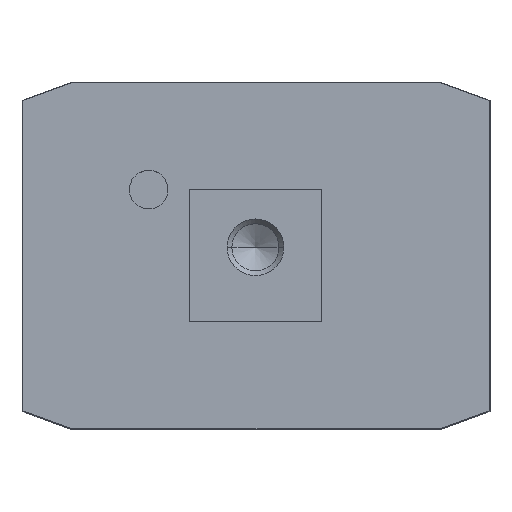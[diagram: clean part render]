
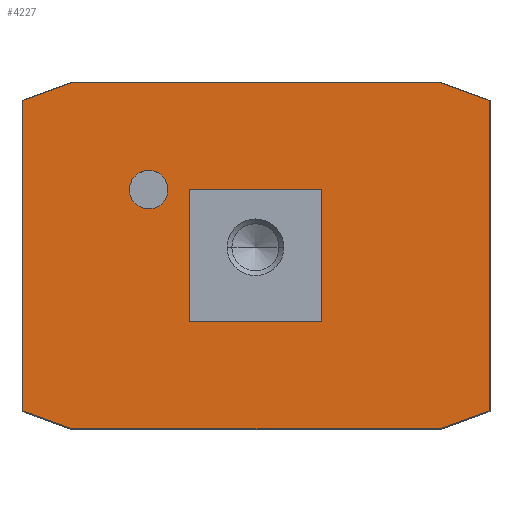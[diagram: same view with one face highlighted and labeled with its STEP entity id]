
A CAD part, top view. The second image highlights one B-rep face of the part: STEP entity #4227.
In plain terms, the highlighted planar face has unit normal (0, 0, 1).
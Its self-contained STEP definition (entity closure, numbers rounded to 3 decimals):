
#1542=CARTESIAN_POINT('',(-23.,12.,56.5));
#1543=VERTEX_POINT('',#1542);
#1559=CARTESIAN_POINT('',(-16.,12.,56.5));
#1560=VERTEX_POINT('',#1559);
#1567=CARTESIAN_POINT('',(-19.5,12.,56.5));
#1568=DIRECTION('',(0.0,0.0,-1.0));
#1569=DIRECTION('',(-1.0,0.0,0.0));
#1570=AXIS2_PLACEMENT_3D('',#1567,#1568,#1569);
#1571=CIRCLE('',#1570,3.5);
#1572=EDGE_CURVE('',#1543,#1560,#1571,.T.);
#2332=CARTESIAN_POINT('',(11.9,12.,56.5));
#2333=VERTEX_POINT('',#2332);
#2340=CARTESIAN_POINT('',(-12.1,12.,56.5));
#2341=VERTEX_POINT('',#2340);
#2342=CARTESIAN_POINT('',(-12.1,12.,56.5));
#2343=DIRECTION('',(1.0,0.0,0.0));
#2344=VECTOR('',#2343,24.);
#2345=LINE('',#2342,#2344);
#2346=EDGE_CURVE('',#2341,#2333,#2345,.T.);
#2370=CARTESIAN_POINT('',(11.9,-12.,56.5));
#2371=VERTEX_POINT('',#2370);
#2378=CARTESIAN_POINT('',(11.9,12.,56.5));
#2379=DIRECTION('',(0.0,-1.0,0.0));
#2380=VECTOR('',#2379,24.);
#2381=LINE('',#2378,#2380);
#2382=EDGE_CURVE('',#2333,#2371,#2381,.T.);
#2401=CARTESIAN_POINT('',(-12.1,-12.,56.5));
#2402=VERTEX_POINT('',#2401);
#2409=CARTESIAN_POINT('',(11.9,-12.,56.5));
#2410=DIRECTION('',(-1.0,0.0,0.0));
#2411=VECTOR('',#2410,24.0);
#2412=LINE('',#2409,#2411);
#2413=EDGE_CURVE('',#2371,#2402,#2412,.T.);
#2431=CARTESIAN_POINT('',(-12.1,-12.,56.5));
#2432=DIRECTION('',(0.0,1.0,0.0));
#2433=VECTOR('',#2432,24.);
#2434=LINE('',#2431,#2433);
#2435=EDGE_CURVE('',#2402,#2341,#2434,.T.);
#2463=CARTESIAN_POINT('',(-19.5,12.,56.5));
#2464=DIRECTION('',(0.0,0.0,-1.0));
#2465=DIRECTION('',(-1.0,0.0,0.0));
#2466=AXIS2_PLACEMENT_3D('',#2463,#2464,#2465);
#2467=CIRCLE('',#2466,3.5);
#2468=EDGE_CURVE('',#1560,#1543,#2467,.T.);
#3959=CARTESIAN_POINT('',(-42.4,-28.154,56.5));
#3960=VERTEX_POINT('',#3959);
#3961=CARTESIAN_POINT('',(-42.4,28.154,56.5));
#3962=VERTEX_POINT('',#3961);
#3963=CARTESIAN_POINT('',(-42.4,-28.154,56.5));
#3964=DIRECTION('',(0.0,1.0,0.0));
#3965=VECTOR('',#3964,56.308);
#3966=LINE('',#3963,#3965);
#3967=EDGE_CURVE('',#3960,#3962,#3966,.T.);
#3999=CARTESIAN_POINT('',(-33.482,31.4,56.5));
#4000=VERTEX_POINT('',#3999);
#4001=CARTESIAN_POINT('',(-42.4,28.154,56.5));
#4002=DIRECTION('',(0.94,0.342,0.0));
#4003=VECTOR('',#4002,9.49);
#4004=LINE('',#4001,#4003);
#4005=EDGE_CURVE('',#3962,#4000,#4004,.T.);
#4030=CARTESIAN_POINT('',(33.482,31.4,56.5));
#4031=VERTEX_POINT('',#4030);
#4032=CARTESIAN_POINT('',(-33.482,31.4,56.5));
#4033=DIRECTION('',(1.0,0.0,0.0));
#4034=VECTOR('',#4033,66.965);
#4035=LINE('',#4032,#4034);
#4036=EDGE_CURVE('',#4000,#4031,#4035,.T.);
#4061=CARTESIAN_POINT('',(42.4,28.154,56.5));
#4062=VERTEX_POINT('',#4061);
#4063=CARTESIAN_POINT('',(33.482,31.4,56.5));
#4064=DIRECTION('',(0.94,-0.342,0.0));
#4065=VECTOR('',#4064,9.49);
#4066=LINE('',#4063,#4065);
#4067=EDGE_CURVE('',#4031,#4062,#4066,.T.);
#4092=CARTESIAN_POINT('',(42.4,-28.154,56.5));
#4093=VERTEX_POINT('',#4092);
#4094=CARTESIAN_POINT('',(42.4,28.154,56.5));
#4095=DIRECTION('',(0.0,-1.0,0.0));
#4096=VECTOR('',#4095,56.308);
#4097=LINE('',#4094,#4096);
#4098=EDGE_CURVE('',#4062,#4093,#4097,.T.);
#4123=CARTESIAN_POINT('',(33.482,-31.4,56.5));
#4124=VERTEX_POINT('',#4123);
#4125=CARTESIAN_POINT('',(42.4,-28.154,56.5));
#4126=DIRECTION('',(-0.94,-0.342,0.0));
#4127=VECTOR('',#4126,9.49);
#4128=LINE('',#4125,#4127);
#4129=EDGE_CURVE('',#4093,#4124,#4128,.T.);
#4154=CARTESIAN_POINT('',(-33.482,-31.4,56.5));
#4155=VERTEX_POINT('',#4154);
#4156=CARTESIAN_POINT('',(33.482,-31.4,56.5));
#4157=DIRECTION('',(-1.0,0.0,0.0));
#4158=VECTOR('',#4157,66.965);
#4159=LINE('',#4156,#4158);
#4160=EDGE_CURVE('',#4124,#4155,#4159,.T.);
#4185=CARTESIAN_POINT('',(-33.482,-31.4,56.5));
#4186=DIRECTION('',(-0.94,0.342,0.0));
#4187=VECTOR('',#4186,9.49);
#4188=LINE('',#4185,#4187);
#4189=EDGE_CURVE('',#4155,#3960,#4188,.T.);
#4202=CARTESIAN_POINT('',(0.0,0.,56.5));
#4203=DIRECTION('',(0.0,0.0,1.0));
#4204=DIRECTION('',(1.0,0.0,0.0));
#4205=AXIS2_PLACEMENT_3D('',#4202,#4203,#4204);
#4206=PLANE('',#4205);
#4207=ORIENTED_EDGE('',*,*,#3967,.F.);
#4208=ORIENTED_EDGE('',*,*,#4189,.F.);
#4209=ORIENTED_EDGE('',*,*,#4160,.F.);
#4210=ORIENTED_EDGE('',*,*,#4129,.F.);
#4211=ORIENTED_EDGE('',*,*,#4098,.F.);
#4212=ORIENTED_EDGE('',*,*,#4067,.F.);
#4213=ORIENTED_EDGE('',*,*,#4036,.F.);
#4214=ORIENTED_EDGE('',*,*,#4005,.F.);
#4215=EDGE_LOOP('',(#4207,#4208,#4209,#4210,#4211,#4212,#4213,#4214));
#4216=FACE_OUTER_BOUND('',#4215,.T.);
#4217=ORIENTED_EDGE('',*,*,#2346,.T.);
#4218=ORIENTED_EDGE('',*,*,#2382,.T.);
#4219=ORIENTED_EDGE('',*,*,#2413,.T.);
#4220=ORIENTED_EDGE('',*,*,#2435,.T.);
#4221=EDGE_LOOP('',(#4217,#4218,#4219,#4220));
#4222=FACE_BOUND('',#4221,.T.);
#4223=ORIENTED_EDGE('',*,*,#2468,.T.);
#4224=ORIENTED_EDGE('',*,*,#1572,.T.);
#4225=EDGE_LOOP('',(#4223,#4224));
#4226=FACE_BOUND('',#4225,.T.);
#4227=ADVANCED_FACE('',(#4216,#4222,#4226),#4206,.T.);
